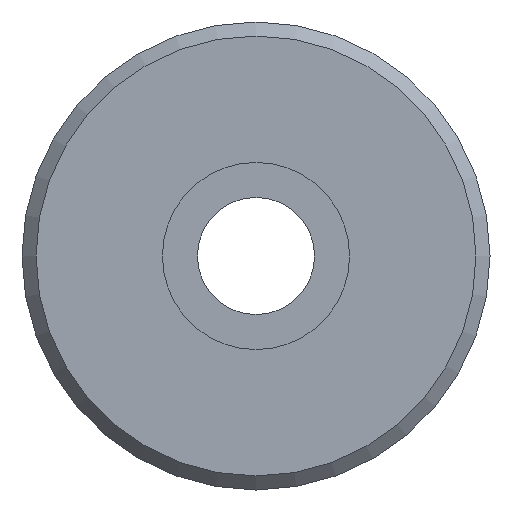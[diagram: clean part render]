
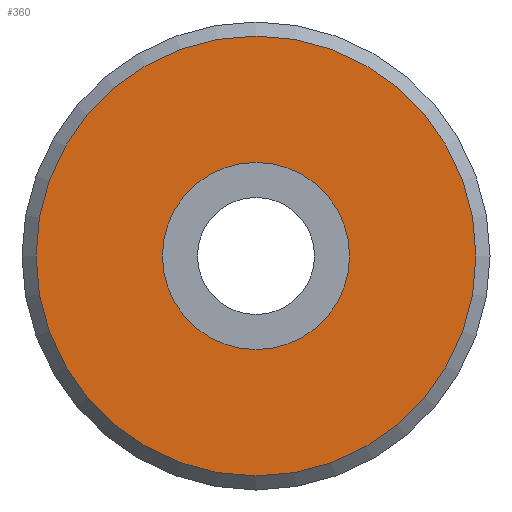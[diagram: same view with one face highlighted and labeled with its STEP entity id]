
A CAD part, front view. The second image highlights one B-rep face of the part: STEP entity #360.
In plain terms, the highlighted planar face has unit normal (0, -1, 0).
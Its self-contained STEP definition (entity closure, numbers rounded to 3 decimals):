
#17=FACE_BOUND('',#67,.T.);
#25=PLANE('',#415);
#40=FACE_OUTER_BOUND('',#66,.T.);
#66=EDGE_LOOP('',(#259));
#67=EDGE_LOOP('',(#260));
#133=CIRCLE('',#412,4.7);
#135=CIRCLE('',#416,2.);
#167=VERTEX_POINT('',#616);
#169=VERTEX_POINT('',#624);
#201=EDGE_CURVE('',#167,#167,#133,.T.);
#204=EDGE_CURVE('',#169,#169,#135,.T.);
#259=ORIENTED_EDGE('',*,*,#201,.F.);
#260=ORIENTED_EDGE('',*,*,#204,.T.);
#360=ADVANCED_FACE('',(#40,#17),#25,.F.);
#412=AXIS2_PLACEMENT_3D('',#618,#482,#483);
#415=AXIS2_PLACEMENT_3D('',#623,#489,#490);
#416=AXIS2_PLACEMENT_3D('',#625,#491,#492);
#482=DIRECTION('center_axis',(0.,1.,0.));
#483=DIRECTION('ref_axis',(-1.,0.,0.));
#489=DIRECTION('center_axis',(0.,1.,0.));
#490=DIRECTION('ref_axis',(0.,0.,1.));
#491=DIRECTION('center_axis',(0.,1.,0.));
#492=DIRECTION('ref_axis',(1.,0.,0.));
#616=CARTESIAN_POINT('',(4.7,-16.9,0.));
#618=CARTESIAN_POINT('Origin',(0.,-16.9,0.));
#623=CARTESIAN_POINT('Origin',(0.,-16.9,0.));
#624=CARTESIAN_POINT('',(-2.,-16.9,0.));
#625=CARTESIAN_POINT('Origin',(0.,-16.9,0.));
